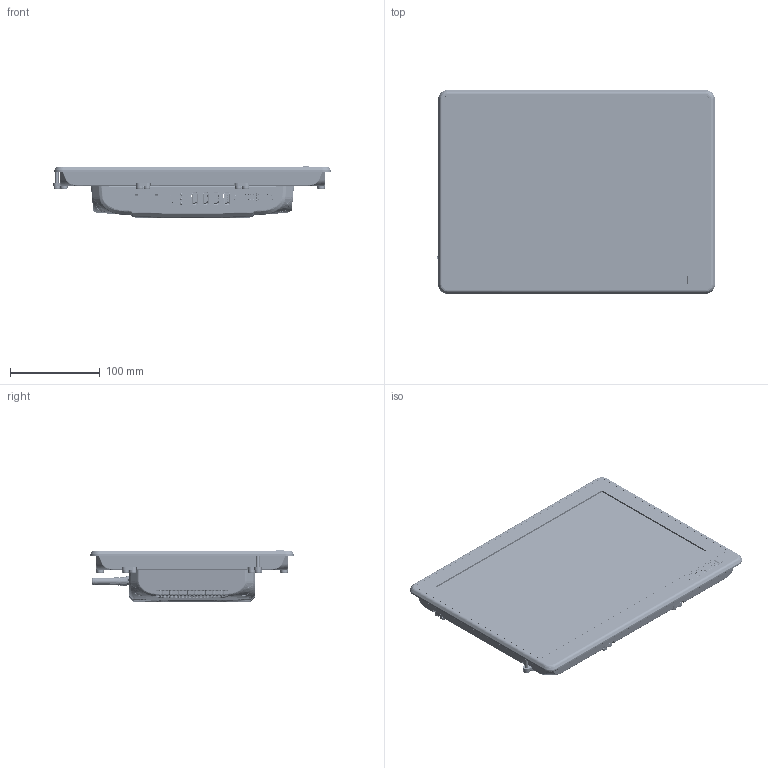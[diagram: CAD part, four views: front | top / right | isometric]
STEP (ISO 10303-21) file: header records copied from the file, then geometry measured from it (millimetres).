
FILE_DESCRIPTION (( 'STEP AP214' ), '1' );
FILE_NAME ('122.STEP', '2024-05-16T05:10:28', ( '' ), ( '' ), 'SwSTEP 2.0', 'SolidWorks 2018', '' );
FILE_SCHEMA (( 'AUTOMOTIVE_DESIGN' ));
Length unit declared in the file: millimetre
Products named in the file (1): 122
Bounding box: 309.35 x 226.8 x 58.5 mm (x, y, z)
Surface area: 635964.9 mm2 (no closed solid volume)
Topology: 0 solids, 827 shells, 14760 faces, 40197 edges, 26243 vertices
Faces by surface type: plane 7583, cylinder 3871, bspline 2007, torus 800, sphere 334, cone 165
Full cylindrical faces by diameter (mm): 0.3 x3, 0.34 x2, 0.5 x18, 0.7 x18, 0.8 x18, 1 x6, 1.2 x1, 1.4 x4, 1.5 x4, 2.2 x2, 2.3 x2, 2.5 x1, 2.6 x4, 3 x1, 3.2 x8, 3.5 x1, 4 x1, 4.2 x12, 4.5 x4, 4.9 x2, 5.9 x1, 6 x2, 7.306 x4, 7.6 x1, 8.1 x1, 8.429 x4
Entity records: 706819 total; most frequent: CARTESIAN_POINT 197212, ORIENTED_EDGE 74700, DIRECTION 64001, EDGE_CURVE 39378, VERTEX_POINT 26119, LINE 22095, VECTOR 22095, AXIS2_PLACEMENT_3D 20953
